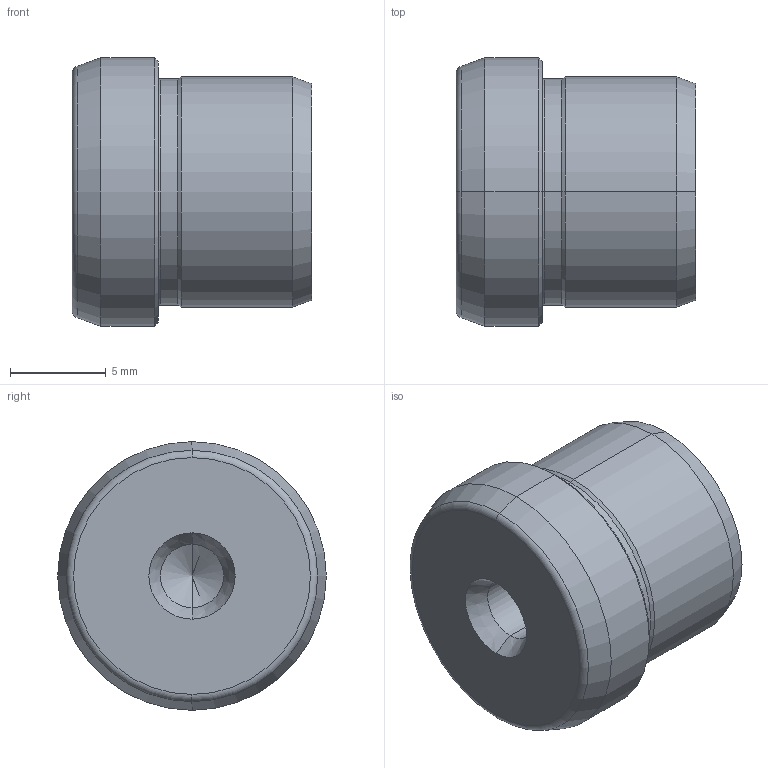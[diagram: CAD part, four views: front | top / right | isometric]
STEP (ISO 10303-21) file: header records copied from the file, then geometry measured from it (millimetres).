
FILE_DESCRIPTION (( 'STEP AP203' ), '1' );
FILE_NAME ('61P493325.STEP', '2024-04-26T01:06:02', ( '' ), ( '' ), 'SwSTEP 2.0', 'SolidWorks 2022', '' );
FILE_SCHEMA (( 'CONFIG_CONTROL_DESIGN' ));
Length unit declared in the file: millimetre
Products named in the file (1): 61P493325
Bounding box: 12.5 x 14 x 14 mm (x, y, z)
Volume: 1500.7 mm3; surface area: 840.5 mm2
Topology: 1 solids, 1 shells, 29 faces, 58 edges, 31 vertices
Faces by surface type: cone 14, cylinder 8, torus 4, plane 3
Entity records: 809 total; most frequent: DIRECTION 150, CARTESIAN_POINT 117, ORIENTED_EDGE 112, AXIS2_PLACEMENT_3D 64, EDGE_CURVE 56, CIRCLE 34, VERTEX_POINT 31, EDGE_LOOP 31
